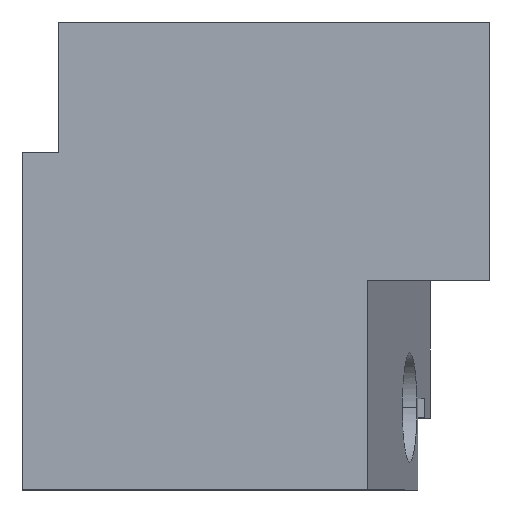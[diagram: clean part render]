
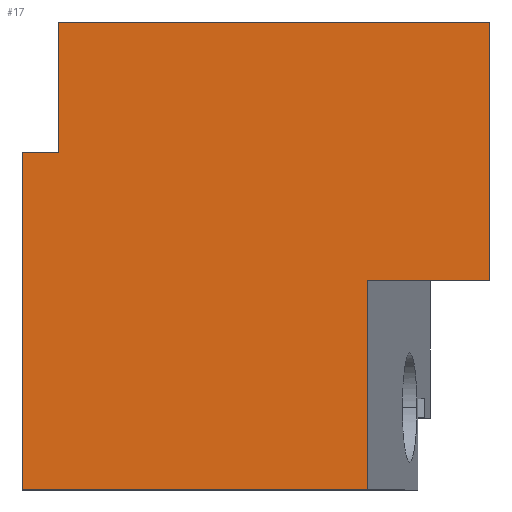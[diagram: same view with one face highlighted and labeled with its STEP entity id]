
A CAD part, top view. The second image highlights one B-rep face of the part: STEP entity #17.
In plain terms, the highlighted planar face has unit normal (0, 0, 1).
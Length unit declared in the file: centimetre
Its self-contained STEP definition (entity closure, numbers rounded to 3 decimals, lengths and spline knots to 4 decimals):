
#17 = ADVANCED_FACE ( 'NONE', ( #256 ), #862, .T. ) ;
#19 = CARTESIAN_POINT ( 'NONE',  ( 0., 0., 1000. ) ) ;
#20 = CARTESIAN_POINT ( 'NONE',  ( 738.7009, 447.712, 1000. ) ) ;
#51 = EDGE_CURVE ( 'NONE', #279, #118, #444, .T. ) ;
#87 = VERTEX_POINT ( 'NONE', #94 ) ;
#94 = CARTESIAN_POINT ( 'NONE',  ( 1000., 447.712, 1000. ) ) ;
#95 = DIRECTION ( 'NONE',  ( -1., 0., 0. ) ) ;
#108 = DIRECTION ( 'NONE',  ( 1., 0., 0. ) ) ;
#118 = VERTEX_POINT ( 'NONE', #510 ) ;
#121 = ORIENTED_EDGE ( 'NONE', *, *, #693, .T. ) ;
#135 = LINE ( 'NONE', #413, #811 ) ;
#141 = CARTESIAN_POINT ( 'NONE',  ( 1000., 1000., 1000. ) ) ;
#178 = CARTESIAN_POINT ( 'NONE',  ( 0., 0., 1000. ) ) ;
#199 = VERTEX_POINT ( 'NONE', #689 ) ;
#233 = LINE ( 'NONE', #379, #549 ) ;
#256 = FACE_OUTER_BOUND ( 'NONE', #521, .T. ) ;
#265 = VECTOR ( 'NONE', #830, 100. ) ;
#269 = EDGE_CURVE ( 'NONE', #87, #199, #295, .T. ) ;
#279 = VERTEX_POINT ( 'NONE', #835 ) ;
#295 = LINE ( 'NONE', #141, #265 ) ;
#332 = ORIENTED_EDGE ( 'NONE', *, *, #516, .T. ) ;
#379 = CARTESIAN_POINT ( 'NONE',  ( 0., 1000., 1000. ) ) ;
#404 = VERTEX_POINT ( 'NONE', #663 ) ;
#409 = LINE ( 'NONE', #19, #728 ) ;
#412 = ORIENTED_EDGE ( 'NONE', *, *, #269, .T. ) ;
#413 = CARTESIAN_POINT ( 'NONE',  ( 1000., 447.712, 1000. ) ) ;
#419 = DIRECTION ( 'NONE',  ( 0., -1., 0. ) ) ;
#441 = DIRECTION ( 'NONE',  ( 0., -1., 0. ) ) ;
#444 = LINE ( 'NONE', #625, #880 ) ;
#464 = ORIENTED_EDGE ( 'NONE', *, *, #643, .T. ) ;
#491 = CARTESIAN_POINT ( 'NONE',  ( 0., 0., 1000. ) ) ;
#510 = CARTESIAN_POINT ( 'NONE',  ( 77.4409, 1000., 1000. ) ) ;
#516 = EDGE_CURVE ( 'NONE', #845, #404, #409, .T. ) ;
#521 = EDGE_LOOP ( 'NONE', ( #857, #652, #121, #332, #547, #738, #412, #464 ) ) ;
#530 = DIRECTION ( 'NONE',  ( 1., 0., 0. ) ) ;
#536 = EDGE_CURVE ( 'NONE', #87, #821, #135, .T. ) ;
#547 = ORIENTED_EDGE ( 'NONE', *, *, #748, .F. ) ;
#549 = VECTOR ( 'NONE', #95, 100. ) ;
#550 = LINE ( 'NONE', #20, #671 ) ;
#566 = DIRECTION ( 'NONE',  ( 1., 0., 0. ) ) ;
#576 = DIRECTION ( 'NONE',  ( 0., 1., 0. ) ) ;
#625 = CARTESIAN_POINT ( 'NONE',  ( 77.4409, 721.5061, 1000. ) ) ;
#627 = CARTESIAN_POINT ( 'NONE',  ( 738.7009, 447.712, 1000. ) ) ;
#638 = LINE ( 'NONE', #780, #814 ) ;
#643 = EDGE_CURVE ( 'NONE', #199, #118, #233, .T. ) ;
#652 = ORIENTED_EDGE ( 'NONE', *, *, #664, .F. ) ;
#663 = CARTESIAN_POINT ( 'NONE',  ( 738.7009, 0., 1000. ) ) ;
#664 = EDGE_CURVE ( 'NONE', #685, #279, #717, .T. ) ;
#671 = VECTOR ( 'NONE', #419, 100. ) ;
#682 = DIRECTION ( 'NONE',  ( -1., 0., 0. ) ) ;
#685 = VERTEX_POINT ( 'NONE', #713 ) ;
#689 = CARTESIAN_POINT ( 'NONE',  ( 1000., 1000., 1000. ) ) ;
#693 = EDGE_CURVE ( 'NONE', #685, #845, #638, .T. ) ;
#711 = AXIS2_PLACEMENT_3D ( 'NONE', #178, #868, #530 ) ;
#713 = CARTESIAN_POINT ( 'NONE',  ( 0., 721.5061, 1000. ) ) ;
#717 = LINE ( 'NONE', #720, #841 ) ;
#720 = CARTESIAN_POINT ( 'NONE',  ( 0., 721.5061, 1000. ) ) ;
#728 = VECTOR ( 'NONE', #566, 100. ) ;
#738 = ORIENTED_EDGE ( 'NONE', *, *, #536, .F. ) ;
#748 = EDGE_CURVE ( 'NONE', #821, #404, #550, .T. ) ;
#780 = CARTESIAN_POINT ( 'NONE',  ( 0., 1000., 1000. ) ) ;
#811 = VECTOR ( 'NONE', #682, 100. ) ;
#814 = VECTOR ( 'NONE', #441, 100. ) ;
#821 = VERTEX_POINT ( 'NONE', #627 ) ;
#830 = DIRECTION ( 'NONE',  ( 0., 1., 0. ) ) ;
#835 = CARTESIAN_POINT ( 'NONE',  ( 77.4409, 721.5061, 1000. ) ) ;
#841 = VECTOR ( 'NONE', #108, 100. ) ;
#845 = VERTEX_POINT ( 'NONE', #491 ) ;
#857 = ORIENTED_EDGE ( 'NONE', *, *, #51, .F. ) ;
#862 = PLANE ( 'NONE',  #711 ) ;
#868 = DIRECTION ( 'NONE',  ( 0., 0., 1. ) ) ;
#880 = VECTOR ( 'NONE', #576, 100. ) ;
